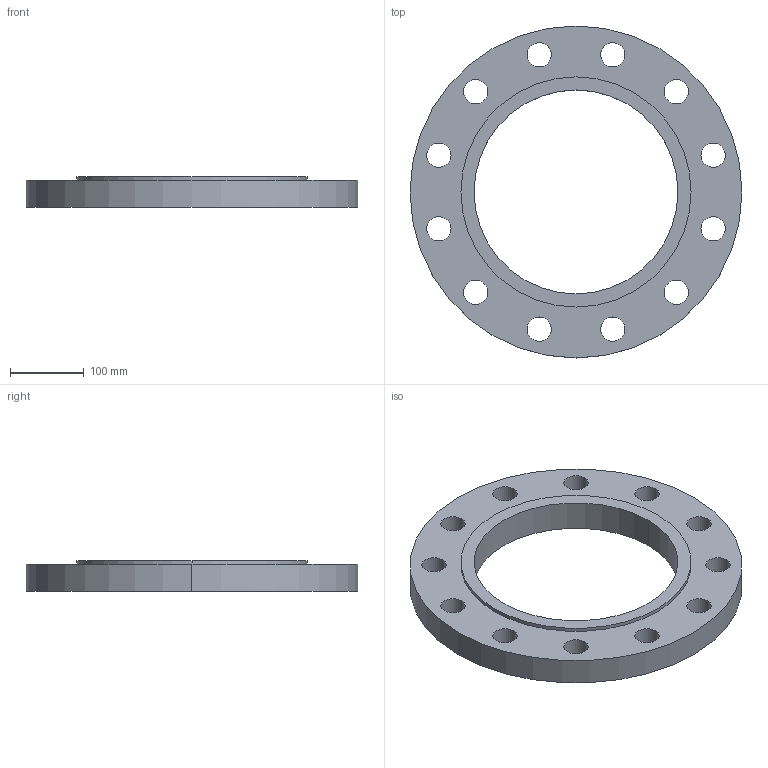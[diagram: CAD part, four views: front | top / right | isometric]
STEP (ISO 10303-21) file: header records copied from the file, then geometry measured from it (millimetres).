
FILE_DESCRIPTION (( 'STEP AP214' ), '1' );
FILE_NAME ('PN40 DN250 Type 01 - Type E Face.STEP', '2019-01-05T16:39:45', ( '' ), ( '' ), 'SwSTEP 2.0', 'SolidWorks 2019', '' );
FILE_SCHEMA (( 'AUTOMOTIVE_DESIGN' ));
Length unit declared in the file: millimetre
Products named in the file (1): PN40 DN250 Type 01 - Type E Face
Bounding box: 450 x 450 x 42 mm (x, y, z)
Volume: 3365203 mm3; surface area: 317190.5 mm2
Topology: 1 solids, 1 shells, 33 faces, 90 edges, 60 vertices
Faces by surface type: cylinder 30, plane 3
Entity records: 1170 total; most frequent: DIRECTION 218, CARTESIAN_POINT 184, ORIENTED_EDGE 180, AXIS2_PLACEMENT_3D 94, EDGE_CURVE 90, CIRCLE 60, EDGE_LOOP 60, VERTEX_POINT 60
